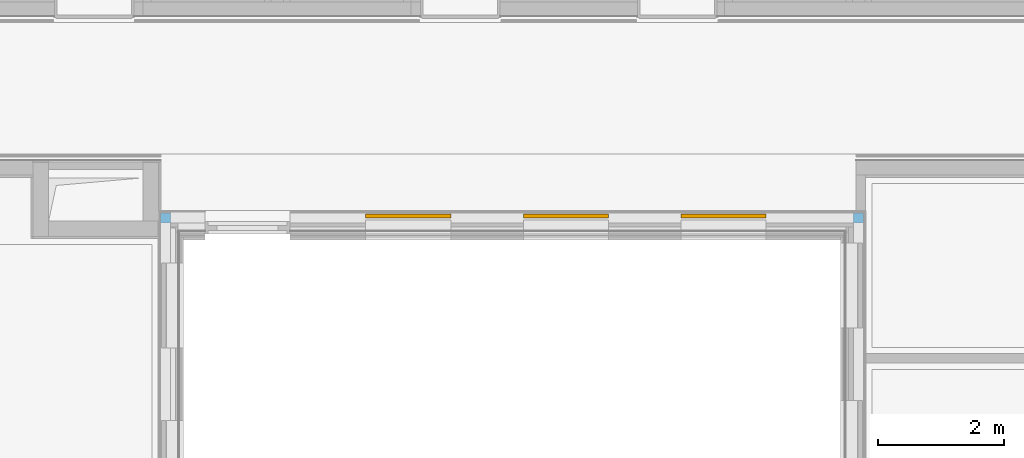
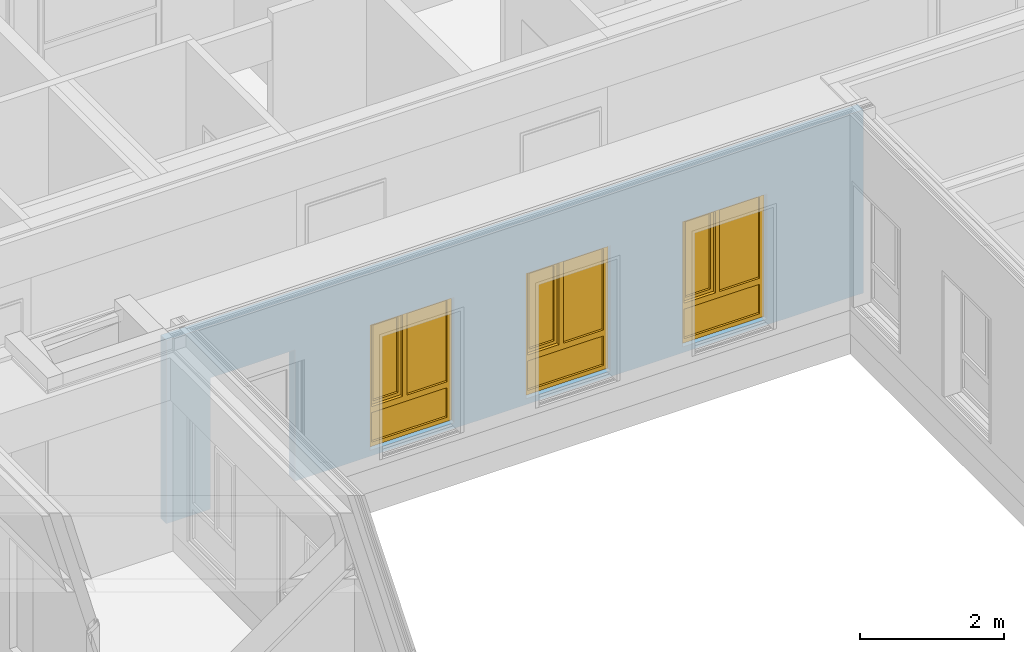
# One storey, part 136 of 207: 3 windows, 4 openings, plus 1 element that does not belong to this part.
"""IFC4 building model written with IfcOpenShell, lengths in metres."""

from ifc_helpers import new_model, entity, si_unit, converted_unit, derived_unit, frame, frame_2d, origin, origin_with_axes, place, context, subcontext, project, spatial, polyline, rectangle, outline, extrude, closed_shell, open_shell, surface_model, source, transform, mapped, material, element, fill, save


model = new_model("IFC4")

# Units and contexts
model_context = context("Model", 3, precision=1e-05, world=origin())
body_context = subcontext(model_context, "Body", "Model", "MODEL_VIEW")
ifc_project = project(units=[si_unit("LENGTHUNIT", "METRE"), si_unit("AREAUNIT", "SQUARE_METRE"), si_unit("VOLUMEUNIT", "CUBIC_METRE"), si_unit("MASSUNIT", "GRAM", prefix="KILO"), converted_unit("PLANEANGLEUNIT", "DEGREE", entity("IfcPlaneAngleMeasure", 0.0174532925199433), si_unit("PLANEANGLEUNIT", "RADIAN"), dimensions=[0, 0, 0, 0, 0, 0, 0]), derived_unit("THERMALTRANSMITTANCEUNIT", [(si_unit("POWERUNIT", "WATT"), 1), (si_unit("THERMODYNAMICTEMPERATUREUNIT", "KELVIN"), -1), (si_unit("LENGTHUNIT", "METRE"), -2)]), derived_unit("VOLUMETRICFLOWRATEUNIT", [(si_unit("LENGTHUNIT", "METRE"), 3), (converted_unit("TIMEUNIT", "hour", entity("IfcTimeMeasure", 3600.0), si_unit("TIMEUNIT", "SECOND"), dimensions=[0, 0, 1, 0, 0, 0, 0]), -1), (si_unit("LENGTHUNIT", "METRE"), -1)])], contexts=[model_context])

# Site, building, storey
site_placement = place(None, origin())
site = spatial("IfcSite", under=ifc_project, at=site_placement, Name="Psychiatrie Neubau Wunstorf", CompositionType="ELEMENT")
building_placement = place(site_placement, origin())
building = spatial("IfcBuilding", under=site, at=building_placement, Name="Neubau H2 Stationsgebäude", CompositionType="ELEMENT")
storey_placement = place(building_placement, frame((0.0, 0.0, -0.2)))
storey = spatial("IfcBuildingStorey", under=building, at=storey_placement, Name="H2 Ebene 0", CompositionType="ELEMENT", Elevation=-0.2)

# Wall, openings, windows
ifc_material = material(Name="WA-HD")
wall_placement = place(storey_placement, frame((90.325, 22.0, 0.5), z_axis=(0.0, 0.0, 1.0), x_axis=(-1.0, 0.0, 0.0)))
wall = element("IfcWall", 1, at=wall_placement, inside=storey, material=ifc_material, context=body_context, shape_type="SweptSolid", body=[
    extrude(rectangle(XDim=11.15, YDim=0.16, at=frame_2d((5.575, 0.08), x_axis=(1.0, 0.0))), origin_with_axes(), (0.0, 0.0, 1.0), 3.1),
])
opening_1_placement = place(wall_placement, frame((7.8953, 0.16, 0.1), z_axis=(0.0, -1.0, 0.0), x_axis=(0.0, 0.0, 1.0)))
opening_1 = element("IfcOpeningElement", 2, at=opening_1_placement, cuts=wall, Name="Fensteröffnung", ObjectType="Opening", context=body_context, shape_type="SweptSolid", body=[
    extrude(outline(polyline([(2.12, 1.35), (2.12, 0.0), (0.0, 0.0), (0.0, 1.35), (2.12, 1.35)])), origin_with_axes(), (0.0, 0.0, 1.0), 0.16),
])
opening_2_placement = place(wall_placement, frame((5.3953, 0.16, 0.1), z_axis=(0.0, -1.0, 0.0), x_axis=(0.0, 0.0, 1.0)))
opening_2 = element("IfcOpeningElement", 3, at=opening_2_placement, cuts=wall, Name="Fensteröffnung", ObjectType="Opening", context=body_context, shape_type="SweptSolid", body=[
    extrude(outline(polyline([(2.12, 1.35), (2.12, 0.0), (0.0, 0.0), (0.0, 1.35), (2.12, 1.35)])), origin_with_axes(), (0.0, 0.0, 1.0), 0.16),
])
opening_3_placement = place(wall_placement, frame((2.8953, 0.16, 0.1), z_axis=(0.0, -1.0, 0.0), x_axis=(0.0, 0.0, 1.0)))
opening_3 = element("IfcOpeningElement", 4, at=opening_3_placement, cuts=wall, Name="Fensteröffnung", ObjectType="Opening", context=body_context, shape_type="SweptSolid", body=[
    extrude(outline(polyline([(2.12, 1.35), (2.12, 0.0), (0.0, 0.0), (0.0, 1.35), (2.12, 1.35)])), origin_with_axes(), (0.0, 0.0, 1.0), 0.16),
])
opening_4_placement = place(wall_placement, frame((10.444, 0.16, -0.5), z_axis=(0.0, -1.0, 0.0), x_axis=(0.0, 0.0, 1.0)))
element("IfcOpeningElement", 5, at=opening_4_placement, cuts=wall, Name="Türöffnung", ObjectType="Opening", context=body_context, shape_type="SweptSolid", body=[
    extrude(outline(polyline([(2.72, 1.35), (2.72, 0.0), (0.0, 0.0), (0.0, 1.35), (2.72, 1.35)])), origin_with_axes(), (0.0, 0.0, 1.0), 0.16),
])
shared_shape_1 = source(origin_with_axes(), body_context, "Body", "SurfaceModel", [
    surface_model("IfcShellBasedSurfaceModel", [(1.35, -0.000200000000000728, 2.12), (1.35, -0.000200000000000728, 0.0), (1.28, -0.000200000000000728, 0.0), (1.28, -0.000200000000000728, 2.12), (1.35, 0.0697999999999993, 0.0), (1.35, 0.0697999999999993, 2.12), (1.28, 0.0697999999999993, 2.12), (1.28, 0.0697999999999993, 0.0)], [closed_shell([[[0, 1, 2, 3]], [[4, 5, 6, 7]], [[1, 0, 5, 4]], [[2, 1, 4, 7]], [[3, 2, 7, 6]], [[0, 3, 6, 5]]], orient=[[False], [False], [False], [False], [False], [False]])]),
    surface_model("IfcShellBasedSurfaceModel", [(0.07, -0.000200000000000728, 2.12), (0.07, -0.000200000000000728, 0.0), (0.0, -0.000200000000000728, 0.0), (0.0, -0.000200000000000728, 2.12), (0.07, 0.0697999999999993, 0.0), (0.07, 0.0697999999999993, 2.12), (0.0, 0.0697999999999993, 2.12), (0.0, 0.0697999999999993, 0.0)], [closed_shell([[[0, 1, 2, 3]], [[4, 5, 6, 7]], [[1, 0, 5, 4]], [[2, 1, 4, 7]], [[3, 2, 7, 6]], [[0, 3, 6, 5]]], orient=[[False], [False], [False], [False], [False], [False]])]),
    surface_model("IfcShellBasedSurfaceModel", [(1.28, -0.000200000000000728, 0.07), (1.28, -0.000200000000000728, 0.0), (0.07, -0.000200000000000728, 0.0), (0.07, -0.000200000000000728, 0.07), (1.28, 0.0697999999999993, 0.0), (1.28, 0.0697999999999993, 0.07), (0.07, 0.0697999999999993, 0.07), (0.07, 0.0697999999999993, 0.0)], [closed_shell([[[0, 1, 2, 3]], [[4, 5, 6, 7]], [[1, 0, 5, 4]], [[2, 1, 4, 7]], [[3, 2, 7, 6]], [[0, 3, 6, 5]]], orient=[[False], [False], [False], [False], [False], [False]])]),
    surface_model("IfcShellBasedSurfaceModel", [(1.28, -0.000200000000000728, 2.12), (1.28, -0.000200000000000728, 2.05), (0.07, -0.000200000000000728, 2.05), (0.07, -0.000200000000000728, 2.12), (1.28, 0.0697999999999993, 2.05), (1.28, 0.0697999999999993, 2.12), (0.07, 0.0697999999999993, 2.12), (0.07, 0.0697999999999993, 2.05)], [closed_shell([[[0, 1, 2, 3]], [[4, 5, 6, 7]], [[1, 0, 5, 4]], [[2, 1, 4, 7]], [[3, 2, 7, 6]], [[0, 3, 6, 5]]], orient=[[False], [False], [False], [False], [False], [False]])]),
    surface_model("IfcShellBasedSurfaceModel", [(1.28, -0.000200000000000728, 0.67), (1.28, -0.000200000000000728, 0.57), (0.07, -0.000200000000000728, 0.57), (0.07, -0.000200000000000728, 0.67), (1.28, 0.0697999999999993, 0.57), (1.28, 0.0697999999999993, 0.67), (0.07, 0.0697999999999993, 0.67), (0.07, 0.0697999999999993, 0.57)], [closed_shell([[[0, 1, 2, 3]], [[4, 5, 6, 7]], [[1, 0, 5, 4]], [[2, 1, 4, 7]], [[3, 2, 7, 6]], [[0, 3, 6, 5]]], orient=[[False], [False], [False], [False], [False], [False]])]),
    surface_model("IfcShellBasedSurfaceModel", [(1.28, 0.0347999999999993, 0.07), (0.07, 0.0347999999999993, 0.07), (0.07, 0.0347999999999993, 0.57), (1.28, 0.0347999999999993, 0.57)], [open_shell([[[0, 1, 2, 3]]], orient=[[False]])]),
    surface_model("IfcShellBasedSurfaceModel", [(0.78, -0.000200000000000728, 2.05), (0.78, -0.000200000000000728, 0.67), (0.71, -0.000200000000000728, 0.67), (0.71, -0.000200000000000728, 2.05), (0.78, 0.0697999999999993, 0.67), (0.78, 0.0697999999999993, 2.05), (0.71, 0.0697999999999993, 2.05), (0.71, 0.0697999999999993, 0.67)], [closed_shell([[[0, 1, 2, 3]], [[4, 5, 6, 7]], [[1, 0, 5, 4]], [[2, 1, 4, 7]], [[3, 2, 7, 6]], [[0, 3, 6, 5]]], orient=[[False], [False], [False], [False], [False], [False]])]),
    surface_model("IfcShellBasedSurfaceModel", [(1.3, -0.0502000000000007, 2.07), (1.3, -0.0502000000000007, 0.65), (1.23, -0.0502000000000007, 0.65), (1.23, -0.0502000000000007, 2.07), (1.3, 0.0197999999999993, 0.65), (1.3, 0.0197999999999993, 2.07), (1.23, 0.0197999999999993, 2.07), (1.23, 0.0197999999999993, 0.65)], [closed_shell([[[0, 1, 2, 3]], [[4, 5, 6, 7]], [[1, 0, 5, 4]], [[2, 1, 4, 7]], [[3, 2, 7, 6]], [[0, 3, 6, 5]]], orient=[[False], [False], [False], [False], [False], [False]])]),
    surface_model("IfcShellBasedSurfaceModel", [(0.83, -0.0502000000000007, 2.07), (0.83, -0.0502000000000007, 0.65), (0.76, -0.0502000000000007, 0.65), (0.76, -0.0502000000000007, 2.07), (0.83, 0.0197999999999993, 0.65), (0.83, 0.0197999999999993, 2.07), (0.76, 0.0197999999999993, 2.07), (0.76, 0.0197999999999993, 0.65)], [closed_shell([[[0, 1, 2, 3]], [[4, 5, 6, 7]], [[1, 0, 5, 4]], [[2, 1, 4, 7]], [[3, 2, 7, 6]], [[0, 3, 6, 5]]], orient=[[False], [False], [False], [False], [False], [False]])]),
    surface_model("IfcShellBasedSurfaceModel", [(1.23, -0.0502000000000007, 0.72), (1.23, -0.0502000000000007, 0.65), (0.83, -0.0502000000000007, 0.65), (0.83, -0.0502000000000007, 0.72), (1.23, 0.0197999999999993, 0.65), (1.23, 0.0197999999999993, 0.72), (0.83, 0.0197999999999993, 0.72), (0.83, 0.0197999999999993, 0.65)], [closed_shell([[[0, 1, 2, 3]], [[4, 5, 6, 7]], [[1, 0, 5, 4]], [[2, 1, 4, 7]], [[3, 2, 7, 6]], [[0, 3, 6, 5]]], orient=[[False], [False], [False], [False], [False], [False]])]),
    surface_model("IfcShellBasedSurfaceModel", [(1.23, -0.0502000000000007, 2.07), (1.23, -0.0502000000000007, 2.0), (0.83, -0.0502000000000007, 2.0), (0.83, -0.0502000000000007, 2.07), (1.23, 0.0197999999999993, 2.0), (1.23, 0.0197999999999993, 2.07), (0.83, 0.0197999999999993, 2.07), (0.83, 0.0197999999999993, 2.0)], [closed_shell([[[0, 1, 2, 3]], [[4, 5, 6, 7]], [[1, 0, 5, 4]], [[2, 1, 4, 7]], [[3, 2, 7, 6]], [[0, 3, 6, 5]]], orient=[[False], [False], [False], [False], [False], [False]])]),
    surface_model("IfcShellBasedSurfaceModel", [(0.71, 0.0347999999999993, 0.67), (0.07, 0.0347999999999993, 0.67), (0.07, 0.0347999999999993, 2.05), (0.71, 0.0347999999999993, 2.05)], [open_shell([[[0, 1, 2, 3]]], orient=[[False]])]),
    surface_model("IfcShellBasedSurfaceModel", [(1.23, -0.0152000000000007, 0.72), (0.83, -0.0152000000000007, 0.72), (0.83, -0.0152000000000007, 2.0), (1.23, -0.0152000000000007, 2.0)], [open_shell([[[0, 1, 2, 3]]], orient=[[False]])]),
])
window_1_placement = place(opening_1_placement, frame((0.0, 1.35, 0.146), z_axis=(1.0, 0.0, 0.0), x_axis=(0.0, -1.0, 0.0)))
window_1 = element("IfcWindow", 6, at=window_1_placement, inside=storey, Name="Fenster", OverallHeight=2.12, OverallWidth=1.35, PartitioningType="USERDEFINED", PredefinedType="WINDOW", context=body_context, shape_type="MappedRepresentation", body=[
    mapped(shared_shape_1, transform((0.0, 0.0, 0.0), x_axis=(1.0, 0.0, 0.0), y_axis=(0.0, 1.0, 0.0), z_axis=(0.0, 0.0, 1.0), scale=1.0)),
])
fill(opening_1, window_1)
shared_shape_2 = source(origin_with_axes(), body_context, "Body", "SurfaceModel", [
    surface_model("IfcShellBasedSurfaceModel", [(1.35, -0.000200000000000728, 2.12), (1.35, -0.000200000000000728, 0.0), (1.28, -0.000200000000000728, 0.0), (1.28, -0.000200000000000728, 2.12), (1.35, 0.0697999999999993, 0.0), (1.35, 0.0697999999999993, 2.12), (1.28, 0.0697999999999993, 2.12), (1.28, 0.0697999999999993, 0.0)], [closed_shell([[[0, 1, 2, 3]], [[4, 5, 6, 7]], [[1, 0, 5, 4]], [[2, 1, 4, 7]], [[3, 2, 7, 6]], [[0, 3, 6, 5]]], orient=[[False], [False], [False], [False], [False], [False]])]),
    surface_model("IfcShellBasedSurfaceModel", [(0.07, -0.000200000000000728, 2.12), (0.07, -0.000200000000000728, 0.0), (0.0, -0.000200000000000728, 0.0), (0.0, -0.000200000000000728, 2.12), (0.07, 0.0697999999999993, 0.0), (0.07, 0.0697999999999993, 2.12), (0.0, 0.0697999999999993, 2.12), (0.0, 0.0697999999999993, 0.0)], [closed_shell([[[0, 1, 2, 3]], [[4, 5, 6, 7]], [[1, 0, 5, 4]], [[2, 1, 4, 7]], [[3, 2, 7, 6]], [[0, 3, 6, 5]]], orient=[[False], [False], [False], [False], [False], [False]])]),
    surface_model("IfcShellBasedSurfaceModel", [(1.28, -0.000200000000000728, 0.07), (1.28, -0.000200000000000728, 0.0), (0.07, -0.000200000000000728, 0.0), (0.07, -0.000200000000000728, 0.07), (1.28, 0.0697999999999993, 0.0), (1.28, 0.0697999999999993, 0.07), (0.07, 0.0697999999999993, 0.07), (0.07, 0.0697999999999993, 0.0)], [closed_shell([[[0, 1, 2, 3]], [[4, 5, 6, 7]], [[1, 0, 5, 4]], [[2, 1, 4, 7]], [[3, 2, 7, 6]], [[0, 3, 6, 5]]], orient=[[False], [False], [False], [False], [False], [False]])]),
    surface_model("IfcShellBasedSurfaceModel", [(1.28, -0.000200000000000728, 2.12), (1.28, -0.000200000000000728, 2.05), (0.07, -0.000200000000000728, 2.05), (0.07, -0.000200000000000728, 2.12), (1.28, 0.0697999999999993, 2.05), (1.28, 0.0697999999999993, 2.12), (0.07, 0.0697999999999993, 2.12), (0.07, 0.0697999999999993, 2.05)], [closed_shell([[[0, 1, 2, 3]], [[4, 5, 6, 7]], [[1, 0, 5, 4]], [[2, 1, 4, 7]], [[3, 2, 7, 6]], [[0, 3, 6, 5]]], orient=[[False], [False], [False], [False], [False], [False]])]),
    surface_model("IfcShellBasedSurfaceModel", [(1.28, -0.000200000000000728, 0.67), (1.28, -0.000200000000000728, 0.57), (0.07, -0.000200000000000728, 0.57), (0.07, -0.000200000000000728, 0.67), (1.28, 0.0697999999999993, 0.57), (1.28, 0.0697999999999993, 0.67), (0.07, 0.0697999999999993, 0.67), (0.07, 0.0697999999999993, 0.57)], [closed_shell([[[0, 1, 2, 3]], [[4, 5, 6, 7]], [[1, 0, 5, 4]], [[2, 1, 4, 7]], [[3, 2, 7, 6]], [[0, 3, 6, 5]]], orient=[[False], [False], [False], [False], [False], [False]])]),
    surface_model("IfcShellBasedSurfaceModel", [(1.28, 0.0347999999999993, 0.07), (0.07, 0.0347999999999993, 0.07), (0.07, 0.0347999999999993, 0.57), (1.28, 0.0347999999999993, 0.57)], [open_shell([[[0, 1, 2, 3]]], orient=[[False]])]),
    surface_model("IfcShellBasedSurfaceModel", [(0.78, -0.000200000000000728, 2.05), (0.78, -0.000200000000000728, 0.67), (0.71, -0.000200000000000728, 0.67), (0.71, -0.000200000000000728, 2.05), (0.78, 0.0697999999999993, 0.67), (0.78, 0.0697999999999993, 2.05), (0.71, 0.0697999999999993, 2.05), (0.71, 0.0697999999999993, 0.67)], [closed_shell([[[0, 1, 2, 3]], [[4, 5, 6, 7]], [[1, 0, 5, 4]], [[2, 1, 4, 7]], [[3, 2, 7, 6]], [[0, 3, 6, 5]]], orient=[[False], [False], [False], [False], [False], [False]])]),
    surface_model("IfcShellBasedSurfaceModel", [(1.3, -0.0502000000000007, 2.07), (1.3, -0.0502000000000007, 0.65), (1.23, -0.0502000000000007, 0.65), (1.23, -0.0502000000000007, 2.07), (1.3, 0.0197999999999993, 0.65), (1.3, 0.0197999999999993, 2.07), (1.23, 0.0197999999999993, 2.07), (1.23, 0.0197999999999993, 0.65)], [closed_shell([[[0, 1, 2, 3]], [[4, 5, 6, 7]], [[1, 0, 5, 4]], [[2, 1, 4, 7]], [[3, 2, 7, 6]], [[0, 3, 6, 5]]], orient=[[False], [False], [False], [False], [False], [False]])]),
    surface_model("IfcShellBasedSurfaceModel", [(0.83, -0.0502000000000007, 2.07), (0.83, -0.0502000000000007, 0.65), (0.76, -0.0502000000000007, 0.65), (0.76, -0.0502000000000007, 2.07), (0.83, 0.0197999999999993, 0.65), (0.83, 0.0197999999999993, 2.07), (0.76, 0.0197999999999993, 2.07), (0.76, 0.0197999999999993, 0.65)], [closed_shell([[[0, 1, 2, 3]], [[4, 5, 6, 7]], [[1, 0, 5, 4]], [[2, 1, 4, 7]], [[3, 2, 7, 6]], [[0, 3, 6, 5]]], orient=[[False], [False], [False], [False], [False], [False]])]),
    surface_model("IfcShellBasedSurfaceModel", [(1.23, -0.0502000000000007, 0.72), (1.23, -0.0502000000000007, 0.65), (0.83, -0.0502000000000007, 0.65), (0.83, -0.0502000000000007, 0.72), (1.23, 0.0197999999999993, 0.65), (1.23, 0.0197999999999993, 0.72), (0.83, 0.0197999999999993, 0.72), (0.83, 0.0197999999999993, 0.65)], [closed_shell([[[0, 1, 2, 3]], [[4, 5, 6, 7]], [[1, 0, 5, 4]], [[2, 1, 4, 7]], [[3, 2, 7, 6]], [[0, 3, 6, 5]]], orient=[[False], [False], [False], [False], [False], [False]])]),
    surface_model("IfcShellBasedSurfaceModel", [(1.23, -0.0502000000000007, 2.07), (1.23, -0.0502000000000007, 2.0), (0.83, -0.0502000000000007, 2.0), (0.83, -0.0502000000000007, 2.07), (1.23, 0.0197999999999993, 2.0), (1.23, 0.0197999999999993, 2.07), (0.83, 0.0197999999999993, 2.07), (0.83, 0.0197999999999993, 2.0)], [closed_shell([[[0, 1, 2, 3]], [[4, 5, 6, 7]], [[1, 0, 5, 4]], [[2, 1, 4, 7]], [[3, 2, 7, 6]], [[0, 3, 6, 5]]], orient=[[False], [False], [False], [False], [False], [False]])]),
    surface_model("IfcShellBasedSurfaceModel", [(0.71, 0.0347999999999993, 0.67), (0.07, 0.0347999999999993, 0.67), (0.07, 0.0347999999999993, 2.05), (0.71, 0.0347999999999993, 2.05)], [open_shell([[[0, 1, 2, 3]]], orient=[[False]])]),
    surface_model("IfcShellBasedSurfaceModel", [(1.23, -0.0152000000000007, 0.72), (0.83, -0.0152000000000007, 0.72), (0.83, -0.0152000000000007, 2.0), (1.23, -0.0152000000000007, 2.0)], [open_shell([[[0, 1, 2, 3]]], orient=[[False]])]),
])
window_2_placement = place(opening_2_placement, frame((0.0, 1.35, 0.146), z_axis=(1.0, 0.0, 0.0), x_axis=(0.0, -1.0, 0.0)))
window_2 = element("IfcWindow", 7, at=window_2_placement, inside=storey, Name="Fenster", OverallHeight=2.12, OverallWidth=1.35, PartitioningType="USERDEFINED", PredefinedType="WINDOW", context=body_context, shape_type="MappedRepresentation", body=[
    mapped(shared_shape_2, transform((0.0, 0.0, 0.0), x_axis=(1.0, 0.0, 0.0), y_axis=(0.0, 1.0, 0.0), z_axis=(0.0, 0.0, 1.0), scale=1.0)),
])
fill(opening_2, window_2)
shared_shape_3 = source(origin_with_axes(), body_context, "Body", "SurfaceModel", [
    surface_model("IfcShellBasedSurfaceModel", [(1.35, -0.000200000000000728, 2.12), (1.35, -0.000200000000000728, 0.0), (1.28, -0.000200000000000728, 0.0), (1.28, -0.000200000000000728, 2.12), (1.35, 0.0697999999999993, 0.0), (1.35, 0.0697999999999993, 2.12), (1.28, 0.0697999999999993, 2.12), (1.28, 0.0697999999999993, 0.0)], [closed_shell([[[0, 1, 2, 3]], [[4, 5, 6, 7]], [[1, 0, 5, 4]], [[2, 1, 4, 7]], [[3, 2, 7, 6]], [[0, 3, 6, 5]]], orient=[[False], [False], [False], [False], [False], [False]])]),
    surface_model("IfcShellBasedSurfaceModel", [(0.07, -0.000200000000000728, 2.12), (0.07, -0.000200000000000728, 0.0), (0.0, -0.000200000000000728, 0.0), (0.0, -0.000200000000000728, 2.12), (0.07, 0.0697999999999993, 0.0), (0.07, 0.0697999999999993, 2.12), (0.0, 0.0697999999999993, 2.12), (0.0, 0.0697999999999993, 0.0)], [closed_shell([[[0, 1, 2, 3]], [[4, 5, 6, 7]], [[1, 0, 5, 4]], [[2, 1, 4, 7]], [[3, 2, 7, 6]], [[0, 3, 6, 5]]], orient=[[False], [False], [False], [False], [False], [False]])]),
    surface_model("IfcShellBasedSurfaceModel", [(1.28, -0.000200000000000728, 0.07), (1.28, -0.000200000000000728, 0.0), (0.07, -0.000200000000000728, 0.0), (0.07, -0.000200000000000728, 0.07), (1.28, 0.0697999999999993, 0.0), (1.28, 0.0697999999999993, 0.07), (0.07, 0.0697999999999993, 0.07), (0.07, 0.0697999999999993, 0.0)], [closed_shell([[[0, 1, 2, 3]], [[4, 5, 6, 7]], [[1, 0, 5, 4]], [[2, 1, 4, 7]], [[3, 2, 7, 6]], [[0, 3, 6, 5]]], orient=[[False], [False], [False], [False], [False], [False]])]),
    surface_model("IfcShellBasedSurfaceModel", [(1.28, -0.000200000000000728, 2.12), (1.28, -0.000200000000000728, 2.05), (0.07, -0.000200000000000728, 2.05), (0.07, -0.000200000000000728, 2.12), (1.28, 0.0697999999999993, 2.05), (1.28, 0.0697999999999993, 2.12), (0.07, 0.0697999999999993, 2.12), (0.07, 0.0697999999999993, 2.05)], [closed_shell([[[0, 1, 2, 3]], [[4, 5, 6, 7]], [[1, 0, 5, 4]], [[2, 1, 4, 7]], [[3, 2, 7, 6]], [[0, 3, 6, 5]]], orient=[[False], [False], [False], [False], [False], [False]])]),
    surface_model("IfcShellBasedSurfaceModel", [(1.28, -0.000200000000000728, 0.67), (1.28, -0.000200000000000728, 0.57), (0.07, -0.000200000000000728, 0.57), (0.07, -0.000200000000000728, 0.67), (1.28, 0.0697999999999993, 0.57), (1.28, 0.0697999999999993, 0.67), (0.07, 0.0697999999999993, 0.67), (0.07, 0.0697999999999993, 0.57)], [closed_shell([[[0, 1, 2, 3]], [[4, 5, 6, 7]], [[1, 0, 5, 4]], [[2, 1, 4, 7]], [[3, 2, 7, 6]], [[0, 3, 6, 5]]], orient=[[False], [False], [False], [False], [False], [False]])]),
    surface_model("IfcShellBasedSurfaceModel", [(1.28, 0.0347999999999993, 0.07), (0.07, 0.0347999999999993, 0.07), (0.07, 0.0347999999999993, 0.57), (1.28, 0.0347999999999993, 0.57)], [open_shell([[[0, 1, 2, 3]]], orient=[[False]])]),
    surface_model("IfcShellBasedSurfaceModel", [(0.78, -0.000200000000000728, 2.05), (0.78, -0.000200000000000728, 0.67), (0.71, -0.000200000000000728, 0.67), (0.71, -0.000200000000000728, 2.05), (0.78, 0.0697999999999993, 0.67), (0.78, 0.0697999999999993, 2.05), (0.71, 0.0697999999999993, 2.05), (0.71, 0.0697999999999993, 0.67)], [closed_shell([[[0, 1, 2, 3]], [[4, 5, 6, 7]], [[1, 0, 5, 4]], [[2, 1, 4, 7]], [[3, 2, 7, 6]], [[0, 3, 6, 5]]], orient=[[False], [False], [False], [False], [False], [False]])]),
    surface_model("IfcShellBasedSurfaceModel", [(1.3, -0.0502000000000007, 2.07), (1.3, -0.0502000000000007, 0.65), (1.23, -0.0502000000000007, 0.65), (1.23, -0.0502000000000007, 2.07), (1.3, 0.0197999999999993, 0.65), (1.3, 0.0197999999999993, 2.07), (1.23, 0.0197999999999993, 2.07), (1.23, 0.0197999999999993, 0.65)], [closed_shell([[[0, 1, 2, 3]], [[4, 5, 6, 7]], [[1, 0, 5, 4]], [[2, 1, 4, 7]], [[3, 2, 7, 6]], [[0, 3, 6, 5]]], orient=[[False], [False], [False], [False], [False], [False]])]),
    surface_model("IfcShellBasedSurfaceModel", [(0.83, -0.0502000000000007, 2.07), (0.83, -0.0502000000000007, 0.65), (0.76, -0.0502000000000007, 0.65), (0.76, -0.0502000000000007, 2.07), (0.83, 0.0197999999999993, 0.65), (0.83, 0.0197999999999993, 2.07), (0.76, 0.0197999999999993, 2.07), (0.76, 0.0197999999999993, 0.65)], [closed_shell([[[0, 1, 2, 3]], [[4, 5, 6, 7]], [[1, 0, 5, 4]], [[2, 1, 4, 7]], [[3, 2, 7, 6]], [[0, 3, 6, 5]]], orient=[[False], [False], [False], [False], [False], [False]])]),
    surface_model("IfcShellBasedSurfaceModel", [(1.23, -0.0502000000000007, 0.72), (1.23, -0.0502000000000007, 0.65), (0.83, -0.0502000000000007, 0.65), (0.83, -0.0502000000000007, 0.72), (1.23, 0.0197999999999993, 0.65), (1.23, 0.0197999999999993, 0.72), (0.83, 0.0197999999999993, 0.72), (0.83, 0.0197999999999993, 0.65)], [closed_shell([[[0, 1, 2, 3]], [[4, 5, 6, 7]], [[1, 0, 5, 4]], [[2, 1, 4, 7]], [[3, 2, 7, 6]], [[0, 3, 6, 5]]], orient=[[False], [False], [False], [False], [False], [False]])]),
    surface_model("IfcShellBasedSurfaceModel", [(1.23, -0.0502000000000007, 2.07), (1.23, -0.0502000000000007, 2.0), (0.83, -0.0502000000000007, 2.0), (0.83, -0.0502000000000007, 2.07), (1.23, 0.0197999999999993, 2.0), (1.23, 0.0197999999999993, 2.07), (0.83, 0.0197999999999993, 2.07), (0.83, 0.0197999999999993, 2.0)], [closed_shell([[[0, 1, 2, 3]], [[4, 5, 6, 7]], [[1, 0, 5, 4]], [[2, 1, 4, 7]], [[3, 2, 7, 6]], [[0, 3, 6, 5]]], orient=[[False], [False], [False], [False], [False], [False]])]),
    surface_model("IfcShellBasedSurfaceModel", [(0.71, 0.0347999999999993, 0.67), (0.07, 0.0347999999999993, 0.67), (0.07, 0.0347999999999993, 2.05), (0.71, 0.0347999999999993, 2.05)], [open_shell([[[0, 1, 2, 3]]], orient=[[False]])]),
    surface_model("IfcShellBasedSurfaceModel", [(1.23, -0.0152000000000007, 0.72), (0.83, -0.0152000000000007, 0.72), (0.83, -0.0152000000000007, 2.0), (1.23, -0.0152000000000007, 2.0)], [open_shell([[[0, 1, 2, 3]]], orient=[[False]])]),
])
window_3_placement = place(opening_3_placement, frame((0.0, 1.35, 0.146), z_axis=(1.0, 0.0, 0.0), x_axis=(0.0, -1.0, 0.0)))
window_3 = element("IfcWindow", 8, at=window_3_placement, inside=storey, Name="Fenster", OverallHeight=2.12, OverallWidth=1.35, PartitioningType="USERDEFINED", PredefinedType="WINDOW", context=body_context, shape_type="MappedRepresentation", body=[
    mapped(shared_shape_3, transform((0.0, 0.0, 0.0), x_axis=(1.0, 0.0, 0.0), y_axis=(0.0, 1.0, 0.0), z_axis=(0.0, 0.0, 1.0), scale=1.0)),
])
fill(opening_3, window_3)

save(model, "model.ifc")
